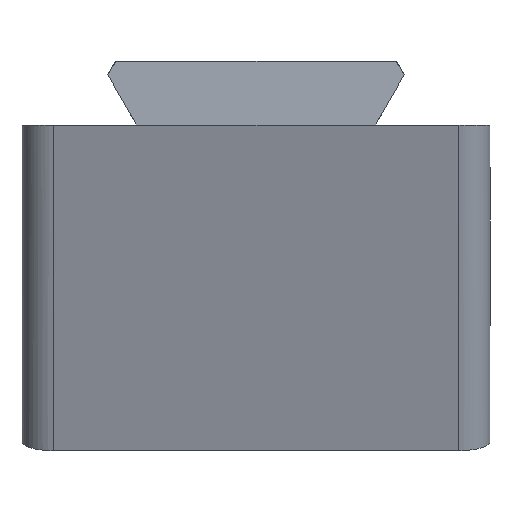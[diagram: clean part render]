
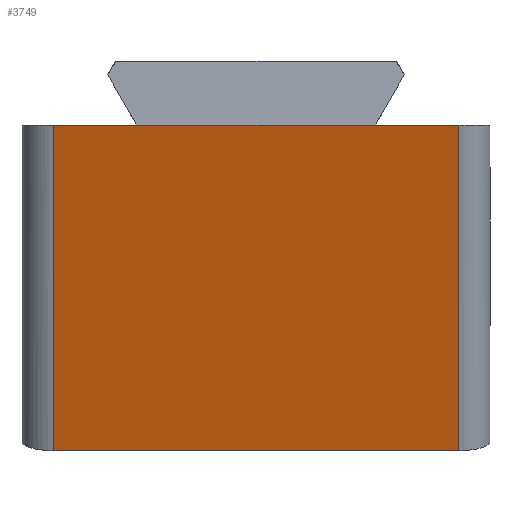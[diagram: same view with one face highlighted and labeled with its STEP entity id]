
A CAD part, left-side view. The second image highlights one B-rep face of the part: STEP entity #3749.
In plain terms, the highlighted planar face has unit normal (-0.956, 0, -0.292).
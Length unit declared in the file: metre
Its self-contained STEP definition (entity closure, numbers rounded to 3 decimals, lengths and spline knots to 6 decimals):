
#486=ORIENTED_EDGE('',*,*,#1416,.T.);
#487=ORIENTED_EDGE('',*,*,#1565,.T.);
#488=ORIENTED_EDGE('',*,*,#1348,.F.);
#489=ORIENTED_EDGE('',*,*,#1566,.T.);
#490=ORIENTED_EDGE('',*,*,#1428,.T.);
#491=ORIENTED_EDGE('',*,*,#1560,.T.);
#1348=EDGE_CURVE('',#1905,#1906,#2276,.T.);
#1416=EDGE_CURVE('',#1964,#1971,#2319,.T.);
#1428=EDGE_CURVE('',#1980,#1956,#2325,.T.);
#1560=EDGE_CURVE('',#1956,#1964,#2413,.T.);
#1565=EDGE_CURVE('',#1971,#1906,#2414,.T.);
#1566=EDGE_CURVE('',#1905,#1980,#2415,.F.);
#1905=VERTEX_POINT('',#5178);
#1906=VERTEX_POINT('',#5180);
#1956=VERTEX_POINT('',#5287);
#1964=VERTEX_POINT('',#5305);
#1971=VERTEX_POINT('',#5322);
#1980=VERTEX_POINT('',#5344);
#2276=LINE('',#5179,#2687);
#2319=LINE('',#5323,#2730);
#2325=LINE('',#5343,#2736);
#2413=LINE('',#5654,#2824);
#2414=LINE('',#5666,#2825);
#2415=LINE('',#5667,#2826);
#2687=VECTOR('',#4232,1.);
#2730=VECTOR('',#4345,1.);
#2736=VECTOR('',#4363,1.);
#2824=VECTOR('',#4503,1.);
#2825=VECTOR('',#4522,1.);
#2826=VECTOR('',#4523,1.);
#3139=EDGE_LOOP('',(#486,#487,#488,#489,#490,#491));
#3384=FACE_BOUND('',#3139,.T.);
#3602=PLANE('',#4029);
#3749=ADVANCED_FACE('',(#3384),#3602,.F.);
#4029=AXIS2_PLACEMENT_3D('',#5665,#4520,#4521);
#4232=DIRECTION('',(0.,1.,0.));
#4345=DIRECTION('',(0.,1.,0.));
#4363=DIRECTION('',(0.,1.,0.));
#4503=DIRECTION('',(0.,1.,0.));
#4520=DIRECTION('',(0.956,0.,0.292));
#4521=DIRECTION('',(0.292,0.,-0.956));
#4522=DIRECTION('',(0.292,0.,-0.956));
#4523=DIRECTION('',(0.292,0.,-0.956));
#5178=CARTESIAN_POINT('',(0.006378,-0.013,-0.020862));
#5179=CARTESIAN_POINT('',(0.006378,-0.015,-0.020862));
#5180=CARTESIAN_POINT('',(0.006378,0.013,-0.020862));
#5287=CARTESIAN_POINT('',(0.,-0.007695,0.));
#5305=CARTESIAN_POINT('',(0.,0.007695,0.));
#5322=CARTESIAN_POINT('',(0.,0.013,0.));
#5323=CARTESIAN_POINT('',(0.,-0.015,0.));
#5343=CARTESIAN_POINT('',(0.,-0.015,0.));
#5344=CARTESIAN_POINT('',(0.,-0.013,0.));
#5654=CARTESIAN_POINT('',(0.,0.,0.));
#5665=CARTESIAN_POINT('',(0.003189,-0.015,-0.010431));
#5666=CARTESIAN_POINT('',(0.003189,0.013,-0.010431));
#5667=CARTESIAN_POINT('',(0.,-0.013,0.));
